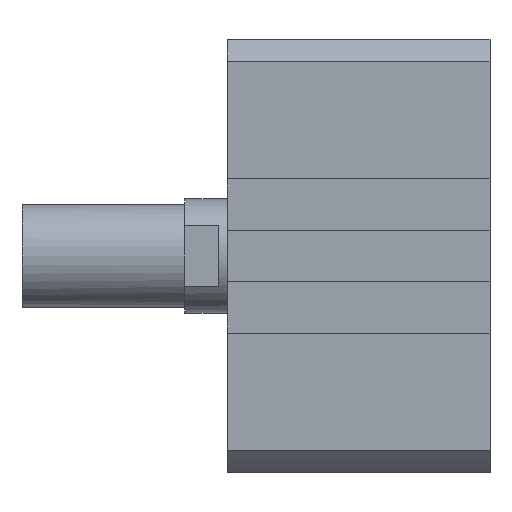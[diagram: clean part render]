
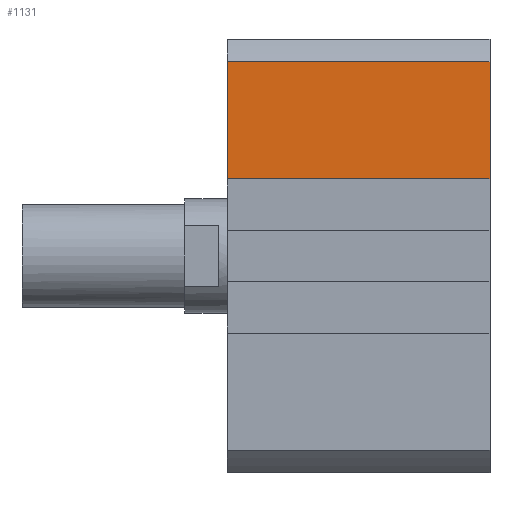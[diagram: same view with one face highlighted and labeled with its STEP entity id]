
A CAD part, left-side view. The second image highlights one B-rep face of the part: STEP entity #1131.
In plain terms, the highlighted planar face has unit normal (-1, 0, 0).
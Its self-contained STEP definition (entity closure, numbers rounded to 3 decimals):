
#143 = CARTESIAN_POINT ( 'NONE',  ( -38., -46., 34.015 ) ) ;
#233 = ORIENTED_EDGE ( 'NONE', *, *, #900, .T. ) ;
#290 = AXIS2_PLACEMENT_3D ( 'NONE', #1906, #311, #2529 ) ;
#311 = DIRECTION ( 'NONE',  ( -1., 0., 0. ) ) ;
#727 = VECTOR ( 'NONE', #1750, 1000. ) ;
#833 = VERTEX_POINT ( 'NONE', #1291 ) ;
#888 = CARTESIAN_POINT ( 'NONE',  ( -38., 0., 34.015 ) ) ;
#900 = EDGE_CURVE ( 'NONE', #1760, #1865, #3192, .T. ) ;
#995 = CARTESIAN_POINT ( 'NONE',  ( -38., -46., 13.5 ) ) ;
#1127 = ORIENTED_EDGE ( 'NONE', *, *, #2525, .T. ) ;
#1131 = ADVANCED_FACE ( 'NONE', ( #3390 ), #2721, .T. ) ;
#1291 = CARTESIAN_POINT ( 'NONE',  ( -38., 0., 13.5 ) ) ;
#1293 = ORIENTED_EDGE ( 'NONE', *, *, #2150, .F. ) ;
#1373 = EDGE_LOOP ( 'NONE', ( #1974, #1293, #233, #1127 ) ) ;
#1427 = LINE ( 'NONE', #143, #727 ) ;
#1429 = VECTOR ( 'NONE', #2214, 1000. ) ;
#1433 = DIRECTION ( 'NONE',  ( 0., 0., 1. ) ) ;
#1598 = LINE ( 'NONE', #2473, #1429 ) ;
#1663 = VERTEX_POINT ( 'NONE', #888 ) ;
#1750 = DIRECTION ( 'NONE',  ( 0., 1., 0. ) ) ;
#1760 = VERTEX_POINT ( 'NONE', #995 ) ;
#1865 = VERTEX_POINT ( 'NONE', #2916 ) ;
#1906 = CARTESIAN_POINT ( 'NONE',  ( -38., -46., 0. ) ) ;
#1974 = ORIENTED_EDGE ( 'NONE', *, *, #2056, .F. ) ;
#2056 = EDGE_CURVE ( 'NONE', #833, #1663, #2582, .T. ) ;
#2150 = EDGE_CURVE ( 'NONE', #1760, #833, #1598, .T. ) ;
#2214 = DIRECTION ( 'NONE',  ( 0., 1., 0. ) ) ;
#2473 = CARTESIAN_POINT ( 'NONE',  ( -38., -46., 13.5 ) ) ;
#2525 = EDGE_CURVE ( 'NONE', #1865, #1663, #1427, .T. ) ;
#2529 = DIRECTION ( 'NONE',  ( 0., 0., 1. ) ) ;
#2582 = LINE ( 'NONE', #2825, #2665 ) ;
#2665 = VECTOR ( 'NONE', #1433, 1000. ) ;
#2721 = PLANE ( 'NONE',  #290 ) ;
#2825 = CARTESIAN_POINT ( 'NONE',  ( -38., 0., 0. ) ) ;
#2856 = VECTOR ( 'NONE', #3277, 1000. ) ;
#2916 = CARTESIAN_POINT ( 'NONE',  ( -38., -46., 34.015 ) ) ;
#2983 = CARTESIAN_POINT ( 'NONE',  ( -38., -46., 0. ) ) ;
#3192 = LINE ( 'NONE', #2983, #2856 ) ;
#3277 = DIRECTION ( 'NONE',  ( 0., 0., 1. ) ) ;
#3390 = FACE_OUTER_BOUND ( 'NONE', #1373, .T. ) ;
